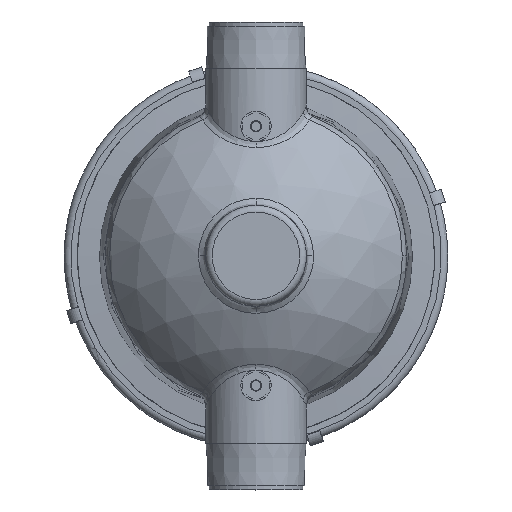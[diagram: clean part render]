
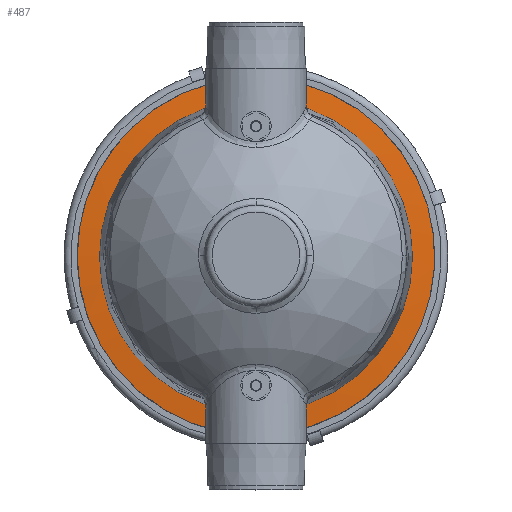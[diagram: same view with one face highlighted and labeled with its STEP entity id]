
A CAD part, top view. The second image highlights one B-rep face of the part: STEP entity #487.
In plain terms, the highlighted conical face has half-angle 85 degrees and reference radius 106.9 mm.
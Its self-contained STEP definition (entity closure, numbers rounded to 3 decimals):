
#487 = ADVANCED_FACE( '', ( #1372, #1373 ), #1374, .T. );
#1372 = FACE_OUTER_BOUND( '', #3928, .T. );
#1373 = FACE_BOUND( '', #3929, .T. );
#1374 = CONICAL_SURFACE( '', #3930, 106.9, 1.484 );
#3928 = EDGE_LOOP( '', ( #7316, #7317 ) );
#3929 = EDGE_LOOP( '', ( #7318 ) );
#3930 = AXIS2_PLACEMENT_3D( '', #7319, #7320, #7321 );
#7316 = ORIENTED_EDGE( '', *, *, #8486, .F. );
#7317 = ORIENTED_EDGE( '', *, *, #8489, .T. );
#7318 = ORIENTED_EDGE( '', *, *, #8481, .F. );
#7319 = CARTESIAN_POINT( '', ( 0., 0., 58.442 ) );
#7320 = DIRECTION( '', ( 0., 0., -1. ) );
#7321 = DIRECTION( '', ( 0., -1., 0. ) );
#8481 = EDGE_CURVE( '', #10248, #10248, #10249, .F. );
#8486 = EDGE_CURVE( '', #10258, #10259, #10260, .F. );
#8489 = EDGE_CURVE( '', #10258, #10259, #10263, .F. );
#10248 = VERTEX_POINT( '', #15511 );
#10249 = CIRCLE( '', #15512, 93. );
#10258 = VERTEX_POINT( '', #15525 );
#10259 = VERTEX_POINT( '', #15526 );
#10260 = CIRCLE( '', #15527, 106.238 );
#10263 = CIRCLE( '', #15532, 106.238 );
#15511 = CARTESIAN_POINT( '', ( -93., 0., 59.658 ) );
#15512 = AXIS2_PLACEMENT_3D( '', #17124, #17125, #17126 );
#15525 = CARTESIAN_POINT( '', ( -10., 105.766, 58.5 ) );
#15526 = CARTESIAN_POINT( '', ( 10., 105.766, 58.5 ) );
#15527 = AXIS2_PLACEMENT_3D( '', #17131, #17132, #17133 );
#15532 = AXIS2_PLACEMENT_3D( '', #17136, #17137, #17138 );
#17124 = CARTESIAN_POINT( '', ( 0., 0., 59.658 ) );
#17125 = DIRECTION( '', ( 0., 0., -1. ) );
#17126 = DIRECTION( '', ( -1., 0., 0. ) );
#17131 = CARTESIAN_POINT( '', ( 0., 0., 58.5 ) );
#17132 = DIRECTION( '', ( 0., 0., 1. ) );
#17133 = DIRECTION( '', ( 0., 1., 0. ) );
#17136 = CARTESIAN_POINT( '', ( 0., 0., 58.5 ) );
#17137 = DIRECTION( '', ( 0., 0., -1. ) );
#17138 = DIRECTION( '', ( 0., -1., 0. ) );
